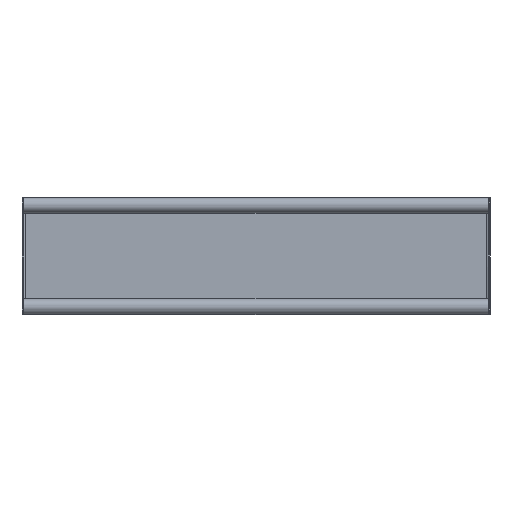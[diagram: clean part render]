
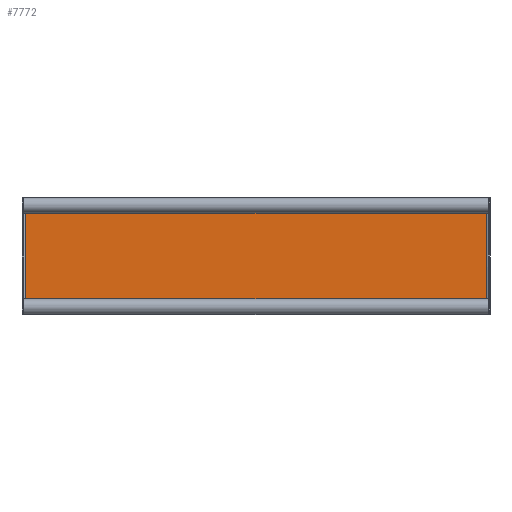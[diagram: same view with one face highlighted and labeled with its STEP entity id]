
A CAD part, front view. The second image highlights one B-rep face of the part: STEP entity #7772.
In plain terms, the highlighted planar face has unit normal (0, -1, 0).
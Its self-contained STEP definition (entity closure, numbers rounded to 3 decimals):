
#261 = VERTEX_POINT ( 'NONE', #4167 ) ;
#532 = VERTEX_POINT ( 'NONE', #2129 ) ;
#998 = CARTESIAN_POINT ( 'NONE',  ( -299., -2., 74. ) ) ;
#1372 = CARTESIAN_POINT ( 'NONE',  ( 299., -2., 74. ) ) ;
#1443 = ORIENTED_EDGE ( 'NONE', *, *, #2849, .F. ) ;
#1449 = VECTOR ( 'NONE', #9665, 1000. ) ;
#1637 = CARTESIAN_POINT ( 'NONE',  ( 296., -2., -74. ) ) ;
#1923 = CARTESIAN_POINT ( 'NONE',  ( 299., -2., -74. ) ) ;
#2129 = CARTESIAN_POINT ( 'NONE',  ( 296., -2., -70. ) ) ;
#2396 = EDGE_CURVE ( 'NONE', #261, #2417, #9579, .T. ) ;
#2417 = VERTEX_POINT ( 'NONE', #5910 ) ;
#2708 = ORIENTED_EDGE ( 'NONE', *, *, #2396, .F. ) ;
#2849 = EDGE_CURVE ( 'NONE', #532, #9125, #3185, .T. ) ;
#2875 = DIRECTION ( 'NONE',  ( 1., 0., 0. ) ) ;
#3026 = DIRECTION ( 'NONE',  ( 0., 0., 1. ) ) ;
#3185 = CIRCLE ( 'NONE', #8679, 5. ) ;
#3230 = DIRECTION ( 'NONE',  ( 0., 0., 1. ) ) ;
#3277 = ORIENTED_EDGE ( 'NONE', *, *, #8246, .F. ) ;
#3399 = CIRCLE ( 'NONE', #6672, 5. ) ;
#3507 = ORIENTED_EDGE ( 'NONE', *, *, #6146, .F. ) ;
#3762 = LINE ( 'NONE', #6005, #6814 ) ;
#3838 = AXIS2_PLACEMENT_3D ( 'NONE', #1372, #5191, #5147 ) ;
#3863 = DIRECTION ( 'NONE',  ( 0., 0., 1. ) ) ;
#4167 = CARTESIAN_POINT ( 'NONE',  ( -296., -2., -70. ) ) ;
#4516 = ORIENTED_EDGE ( 'NONE', *, *, #7049, .T. ) ;
#4560 = PLANE ( 'NONE',  #9532 ) ;
#4708 = FACE_OUTER_BOUND ( 'NONE', #7420, .T. ) ;
#4921 = DIRECTION ( 'NONE',  ( 0., -1., 0. ) ) ;
#4952 = CARTESIAN_POINT ( 'NONE',  ( 295., -2., 71. ) ) ;
#5147 = DIRECTION ( 'NONE',  ( 0., 0., 1. ) ) ;
#5191 = DIRECTION ( 'NONE',  ( 0., -1., 0. ) ) ;
#5249 = AXIS2_PLACEMENT_3D ( 'NONE', #9430, #9333, #3026 ) ;
#5587 = DIRECTION ( 'NONE',  ( 0., -1., 0. ) ) ;
#5678 = EDGE_CURVE ( 'NONE', #6041, #6935, #7760, .T. ) ;
#5910 = CARTESIAN_POINT ( 'NONE',  ( -296., -2., 70. ) ) ;
#6005 = CARTESIAN_POINT ( 'NONE',  ( -299., -2., -71. ) ) ;
#6041 = VERTEX_POINT ( 'NONE', #4952 ) ;
#6067 = DIRECTION ( 'NONE',  ( 1., 0., 0. ) ) ;
#6146 = EDGE_CURVE ( 'NONE', #6426, #261, #8088, .T. ) ;
#6229 = EDGE_CURVE ( 'NONE', #532, #6935, #7683, .T. ) ;
#6246 = ORIENTED_EDGE ( 'NONE', *, *, #7895, .F. ) ;
#6426 = VERTEX_POINT ( 'NONE', #9697 ) ;
#6557 = CARTESIAN_POINT ( 'NONE',  ( 295., -2., -71. ) ) ;
#6593 = LINE ( 'NONE', #8812, #8085 ) ;
#6646 = CARTESIAN_POINT ( 'NONE',  ( -296., -2., -74. ) ) ;
#6672 = AXIS2_PLACEMENT_3D ( 'NONE', #998, #5587, #3230 ) ;
#6784 = DIRECTION ( 'NONE',  ( 0., 0., 1. ) ) ;
#6814 = VECTOR ( 'NONE', #6067, 1000. ) ;
#6823 = VERTEX_POINT ( 'NONE', #7550 ) ;
#6838 = DIRECTION ( 'NONE',  ( 0., 1., 0. ) ) ;
#6935 = VERTEX_POINT ( 'NONE', #7809 ) ;
#7049 = EDGE_CURVE ( 'NONE', #6426, #9125, #3762, .T. ) ;
#7166 = DIRECTION ( 'NONE',  ( 0., 0., 1. ) ) ;
#7420 = EDGE_LOOP ( 'NONE', ( #1443, #8794, #8983, #3277, #6246, #2708, #3507, #4516 ) ) ;
#7550 = CARTESIAN_POINT ( 'NONE',  ( -295., -2., 71. ) ) ;
#7683 = LINE ( 'NONE', #1637, #7768 ) ;
#7760 = CIRCLE ( 'NONE', #3838, 5. ) ;
#7768 = VECTOR ( 'NONE', #6784, 1000. ) ;
#7772 = ADVANCED_FACE ( 'NONE', ( #4708 ), #4560, .F. ) ;
#7809 = CARTESIAN_POINT ( 'NONE',  ( 296., -2., 70. ) ) ;
#7895 = EDGE_CURVE ( 'NONE', #2417, #6823, #3399, .T. ) ;
#8085 = VECTOR ( 'NONE', #2875, 1000. ) ;
#8088 = CIRCLE ( 'NONE', #5249, 5. ) ;
#8246 = EDGE_CURVE ( 'NONE', #6823, #6041, #6593, .T. ) ;
#8679 = AXIS2_PLACEMENT_3D ( 'NONE', #1923, #4921, #7166 ) ;
#8794 = ORIENTED_EDGE ( 'NONE', *, *, #6229, .T. ) ;
#8812 = CARTESIAN_POINT ( 'NONE',  ( -299., -2., 71. ) ) ;
#8983 = ORIENTED_EDGE ( 'NONE', *, *, #5678, .F. ) ;
#9125 = VERTEX_POINT ( 'NONE', #6557 ) ;
#9333 = DIRECTION ( 'NONE',  ( 0., -1., 0. ) ) ;
#9430 = CARTESIAN_POINT ( 'NONE',  ( -299., -2., -74. ) ) ;
#9532 = AXIS2_PLACEMENT_3D ( 'NONE', #9716, #6838, #3863 ) ;
#9579 = LINE ( 'NONE', #6646, #1449 ) ;
#9665 = DIRECTION ( 'NONE',  ( 0., 0., 1. ) ) ;
#9697 = CARTESIAN_POINT ( 'NONE',  ( -295., -2., -71. ) ) ;
#9716 = CARTESIAN_POINT ( 'NONE',  ( -299., -2., -74. ) ) ;
